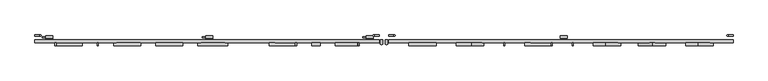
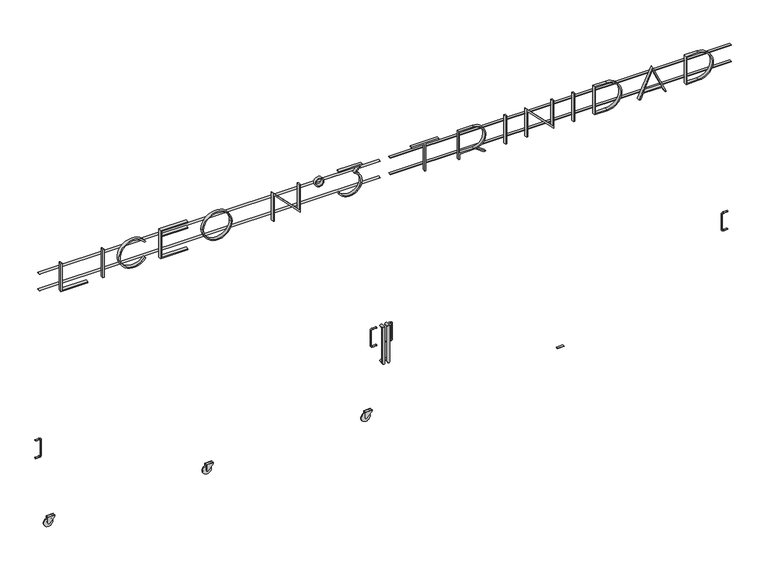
"""IFC4 building model written with IfcOpenShell, lengths in millimetres: furniture geometry, H01 Portón corredizo : H01 Porton corredizo 721x315."""

from ifc_helpers import new_model, si_unit, point, frame, frame_2d, origin, place, context, project, spatial, polyline, circle_curve, ellipse_curve, trimmed, segment, composite_curve, outline, extrude, source, transform, mapped, element, save
from ifc_brep_helpers import plane_surface, cylinder_surface, revolved_surface, advanced_brep


def furniture_868831be(model_context):
    return source(origin(), model_context, "Body", "SolidModel", [
        extrude(outline(polyline([(2529.9998627, -6365.2996736), (2529.9998627, -6090.2994096), (2542.4295313, -6090.2994096), (2542.4295313, -6352.9369075), (2829.9998627, -6352.9369075), (2829.9998627, -6365.2996736), (2529.9998627, -6365.2996736)])), frame((0.0, -669.0, 0.0), z_axis=(0.0, 1.0, 0.0), x_axis=(0.0, 0.0, 1.0)), (0.0, 0.0, 1.0), 30.0),
        extrude(outline(polyline([(-5927.9366435, -669.0), (-5940.2994096, -669.0), (-5940.2994096, -639.0), (-5927.9366435, -639.0), (-5927.9366435, -669.0)])), frame((0.0, 0.0, 2529.9998627), z_axis=(0.0, 0.0, 1.0), x_axis=(1.0, 0.0, 0.0)), (0.0, 0.0, 1.0), 300.0),
        extrude(outline(composite_curve([segment(polyline([(2591.7095497, -5505.848262), (2598.9302362, -5515.883064)]), True, "CONTINUOUS"), segment(trimmed(circle_curve(frame_2d((2679.4277113, -5627.752736)), 137.8211414), [point((2598.9302362, -5515.883064))], [point((2759.9251843, -5515.8830625))], True, "CARTESIAN"), True, "CONTINUOUS"), segment(polyline([(2759.9251843, -5515.8830625), (2767.145873, -5505.848262)]), True, "CONTINUOUS"), segment(trimmed(circle_curve(frame_2d((2679.4277113, -5627.75279)), 150.1838534), [point((2767.145873, -5505.848262))], [point((2591.7095497, -5505.848262))], False, "CARTESIAN"), True, "CONTINUOUS")], self_intersect=False)), frame((0.0, -669.0, 0.0), z_axis=(0.0, 1.0, 0.0), x_axis=(0.0, 0.0, 1.0)), (0.0, 0.0, 1.0), 30.0),
        extrude(outline(polyline([(2829.9998627, -5355.848262), (2528.85556, -5355.848262), (2528.85556, -5080.8479981), (2541.2181676, -5080.8479981), (2541.2181676, -5343.4854959), (2758.6762121, -5343.4854959), (2758.6762121, -5080.8479981), (2771.0389782, -5080.8479981), (2771.0389782, -5343.4854959), (2817.6369381, -5343.4854959), (2817.6369381, -5080.8479981), (2829.9998627, -5080.8479981), (2829.9998627, -5355.848262)])), frame((0.0, -669.0, 0.0), z_axis=(0.0, 1.0, 0.0), x_axis=(0.0, 0.0, 1.0)), (0.0, 0.0, 1.0), 30.0),
        extrude(outline(composite_curve([segment(trimmed(circle_curve(frame_2d((2679.9998627, -4780.8479981)), 150.0), [point((2679.9998627, -4930.8479981))], [point((2679.9998627, -4630.8479981))], False, "CARTESIAN"), True, "CONTINUOUS"), segment(trimmed(circle_curve(frame_2d((2679.9998627, -4780.8479981)), 150.0), [point((2679.9998627, -4630.8479981))], [point((2679.9998627, -4930.8479981))], False, "CARTESIAN"), True, "CONTINUOUS")], self_intersect=False), holes=[composite_curve([segment(trimmed(circle_curve(frame_2d((2679.9998627, -4780.8479981)), 137.4283733), [point((2679.9998627, -4918.2763713))], [point((2679.9998627, -4643.4196248))], True, "CARTESIAN"), True, "CONTINUOUS"), segment(trimmed(circle_curve(frame_2d((2679.9998627, -4780.8479981)), 137.4283733), [point((2679.9998627, -4643.4196248))], [point((2679.9998627, -4918.2763713))], True, "CARTESIAN"), True, "CONTINUOUS")], self_intersect=False)]), frame((0.0, -669.0, 0.0), z_axis=(0.0, 1.0, 0.0), x_axis=(0.0, 0.0, 1.0)), (0.0, 0.0, 1.0), 30.0),
        extrude(outline(polyline([(2829.9998627, -4216.8407522), (2529.0929739, -4216.8407522), (2529.0929739, -4204.5022238), (2799.5070611, -4204.5022238), (2798.0975097, -4203.0926724), (2529.0765137, -3941.8404882), (2829.9998627, -3941.8404882), (2829.9998627, -3954.2032543), (2559.5523582, -3954.2032543), (2829.9998627, -4216.8407522)])), frame((0.0, -669.0, 0.0), z_axis=(0.0, 1.0, 0.0), x_axis=(0.0, 0.0, 1.0)), (0.0, 0.0, 1.0), 30.0),
        extrude(outline(composite_curve([segment(trimmed(circle_curve(frame_2d((2781.9708755, -3747.4640771)), 44.3764111), [point((2737.5944644, -3747.4640771))], [point((2781.9708755, -3703.087666))], False, "CARTESIAN"), True, "CONTINUOUS"), segment(trimmed(circle_curve(frame_2d((2781.9708755, -3747.4640771)), 44.3764111), [point((2781.9708755, -3703.087666))], [point((2737.5944644, -3747.4640771))], False, "CARTESIAN"), True, "CONTINUOUS")], self_intersect=False), holes=[composite_curve([segment(trimmed(circle_curve(frame_2d((2781.9708755, -3747.4640771)), 33.5035361), [point((2777.3080845, -3780.6415591))], [point((2815.4744115, -3747.4640771))], True, "CARTESIAN"), True, "CONTINUOUS"), segment(trimmed(circle_curve(frame_2d((2781.9708755, -3747.4640771)), 33.5035361), [point((2815.4744115, -3747.4640771))], [point((2777.3080845, -3780.6415591))], True, "CARTESIAN"), True, "CONTINUOUS")], self_intersect=False)]), frame((0.0, -669.0, 0.0), z_axis=(0.0, 1.0, 0.0), x_axis=(0.0, 0.0, 1.0)), (0.0, 0.0, 1.0), 30.0),
        extrude(outline(composite_curve([segment(polyline([(2829.9998627, -3315.2996736), (2829.9998627, -3553.087666), (2817.6369381, -3553.087666), (2817.6369381, -3343.3913293), (2759.0291421, -3397.3715435)]), True, "CONTINUOUS"), segment(trimmed(circle_curve(frame_2d((2654.721664, -3444.7556694)), 114.5657251), [point((2759.0291421, -3397.3715435))], [point((2597.6970286, -3544.1211379))], True, "CARTESIAN"), True, "CONTINUOUS"), segment(polyline([(2597.6970286, -3544.1211379), (2588.7305004, -3553.087666)]), True, "CONTINUOUS"), segment(trimmed(circle_curve(frame_2d((2654.4882206, -3444.7302785)), 126.7493637), [point((2588.7305004, -3553.087666))], [point((2762.1312109, -3377.8095206))], False, "CARTESIAN"), True, "CONTINUOUS"), segment(polyline([(2762.1312109, -3377.8095206), (2829.9998627, -3315.2996736)]), True, "CONTINUOUS")], self_intersect=False)), frame((0.0, -669.0, 0.0), z_axis=(0.0, 1.0, 0.0), x_axis=(0.0, 0.0, 1.0)), (0.0, 0.0, 1.0), 30.0),
        extrude(outline(polyline([(2829.9998627, -2540.2995355), (2829.9998627, -2815.2996736), (2817.6371023, -2815.2996736), (2817.6371023, -2683.4025872), (2530.0, -2683.4025872), (2530.0, -2671.6225997), (2817.6371023, -2671.6225997), (2817.6371023, -2540.2995355), (2829.9998627, -2540.2995355)])), frame((0.0, -669.0, 0.0), z_axis=(0.0, 1.0, 0.0), x_axis=(0.0, 0.0, 1.0)), (0.0, 0.0, 1.0), 30.0),
        extrude(outline(composite_curve([segment(polyline([(2829.9998627, -2340.2995355), (2530.0, -2340.2995355), (2530.0, -2327.936775), (2587.673794, -2327.936775), (2587.673794, -2171.9192542), (2529.9999314, -2087.257936), (2529.9999314, -2065.2993974), (2591.6272199, -2155.7640835)]), True, "CONTINUOUS"), segment(trimmed(circle_curve(frame_2d((2708.8368283, -2186.4624317)), 121.1630344), [point((2591.6272199, -2155.7640835))], [point((2829.9998627, -2186.4624317))], False, "CARTESIAN"), True, "CONTINUOUS"), segment(polyline([(2829.9998627, -2186.4624317), (2829.9998627, -2340.2995355)]), True, "CONTINUOUS")], self_intersect=False), holes=[composite_curve([segment(polyline([(2600.0365544, -2327.936775), (2817.6371023, -2327.936775), (2817.6371023, -2186.4624317)]), True, "CONTINUOUS"), segment(trimmed(circle_curve(frame_2d((2708.8368283, -2186.4624317)), 108.8002739), [point((2817.6371023, -2186.4624317))], [point((2600.0365544, -2186.4624317))], True, "CARTESIAN"), True, "CONTINUOUS"), segment(polyline([(2600.0365544, -2186.4624317), (2600.0365544, -2327.936775)]), True, "CONTINUOUS")], self_intersect=False)]), frame((0.0, -669.0, 0.0), z_axis=(0.0, 1.0, 0.0), x_axis=(0.0, 0.0, 1.0)), (0.0, 0.0, 1.0), 30.0),
        extrude(outline(polyline([(-1852.9366312, -669.0), (-1865.2993974, -669.0), (-1865.2993974, -639.0), (-1852.9366312, -639.0), (-1852.9366312, -669.0)])), frame((0.0, 0.0, 2529.9999314), z_axis=(0.0, 0.0, 1.0), x_axis=(1.0, 0.0, 0.0)), (0.0, 0.0, 1.0), 299.9998627),
        extrude(outline(polyline([(2829.9997941, -1652.9366312), (2529.9999314, -1652.9366312), (2529.9999314, -1640.5738651), (2800.4309757, -1640.5738651), (2529.9999314, -1377.9363673), (2829.9997941, -1377.9363673), (2829.9997941, -1390.2991334), (2560.4593157, -1390.2991334), (2829.9997941, -1652.9366312)])), frame((0.0, -669.0, 0.0), z_axis=(0.0, 1.0, 0.0), x_axis=(0.0, 0.0, 1.0)), (0.0, 0.0, 1.0), 30.0),
        extrude(outline(polyline([(-1165.5736012, -669.0), (-1177.9363673, -669.0), (-1177.9363673, -639.0), (-1165.5736012, -639.0), (-1165.5736012, -669.0)])), frame((0.0, 0.0, 2529.9834712), z_axis=(0.0, 0.0, 1.0), x_axis=(1.0, 0.0, 0.0)), (0.0, 0.0, 1.0), 300.0163229),
        extrude(outline(composite_curve([segment(polyline([(2829.9997941, -965.5736012), (2529.9999314, -965.5736012), (2529.9999314, -840.5733372)]), True, "CONTINUOUS"), segment(trimmed(circle_curve(frame_2d((2679.9998627, -840.5733372)), 149.9999314), [point((2529.9999314, -840.5733372))], [point((2829.9997941, -840.5733372))], False, "CARTESIAN"), True, "CONTINUOUS"), segment(polyline([(2829.9997941, -840.5733372), (2829.9997941, -965.5736012)]), True, "CONTINUOUS")], self_intersect=False), holes=[composite_curve([segment(polyline([(2817.5538026, -953.2108351), (2817.5538026, -840.5733372)]), True, "CONTINUOUS"), segment(trimmed(circle_curve(frame_2d((2679.9499407, -840.5733372)), 137.6038619), [point((2817.5538026, -840.5733372))], [point((2542.3460788, -840.5733372))], True, "CARTESIAN"), True, "CONTINUOUS"), segment(polyline([(2542.3460788, -840.5733372), (2542.3460788, -953.2108351), (2817.5538026, -953.2108351)]), True, "CONTINUOUS")], self_intersect=False)]), frame((0.0, -669.0, 0.0), z_axis=(0.0, 1.0, 0.0), x_axis=(0.0, 0.0, 1.0)), (0.0, 0.0, 1.0), 30.0),
        extrude(outline(polyline([(2829.9998627, -377.7848433), (2529.9834712, -515.2923246), (2529.9834712, -501.6929047), (2587.6572362, -475.2590958), (2587.6572362, -280.3226778), (2530.0, -253.8992888), (2530.0, -240.2998689), (2829.9998627, -377.7848433)]), holes=[polyline([(2600.0199904, -469.5928334), (2800.3267866, -377.7855833), (2600.0199904, -285.9883236), (2600.0199904, -469.5928334)])]), frame((0.0, -669.0, 0.0), z_axis=(0.0, 1.0, 0.0), x_axis=(0.0, 0.0, 1.0)), (0.0, 0.0, 1.0), 30.0),
        extrude(outline(composite_curve([segment(polyline([(2829.9998627, -40.2998689), (2530.0, -40.2998689), (2530.0, 84.7003951)]), True, "CONTINUOUS"), segment(trimmed(circle_curve(frame_2d((2679.9999314, 84.7003951)), 149.9999314), [point((2530.0, 84.7003951))], [point((2829.9998627, 84.7003951))], False, "CARTESIAN"), True, "CONTINUOUS"), segment(polyline([(2829.9998627, 84.7003951), (2829.9998627, -40.2998689)]), True, "CONTINUOUS")], self_intersect=False), holes=[composite_curve([segment(polyline([(2817.5538712, -27.9371028), (2817.5538712, 84.7003951)]), True, "CONTINUOUS"), segment(trimmed(circle_curve(frame_2d((2679.9500093, 84.7003951)), 137.6038619), [point((2817.5538712, 84.7003951))], [point((2542.3461475, 84.7003951))], True, "CARTESIAN"), True, "CONTINUOUS"), segment(polyline([(2542.3461475, 84.7003951), (2542.3461475, -27.9371028), (2817.5538712, -27.9371028)]), True, "CONTINUOUS")], self_intersect=False)]), frame((0.0, -669.0, 0.0), z_axis=(0.0, 1.0, 0.0), x_axis=(0.0, 0.0, 1.0)), (0.0, 0.0, 1.0), 30.0),
        extrude(outline(polyline([(-3115.2996736, -639.0), (-6565.2996736, -639.0), (-6565.2996736, -609.0), (-3115.2996736, -609.0), (-3115.2996736, -639.0)])), frame((0.0, 0.0, 2765.9998627), z_axis=(0.0, 0.0, 1.0), x_axis=(1.0, 0.0, 0.0)), (0.0, 0.0, 1.0), 4.0),
        extrude(outline(polyline([(-3115.2996736, -639.0), (-6565.2996736, -639.0), (-6565.2996736, -609.0), (-3115.2996736, -609.0), (-3115.2996736, -639.0)])), frame((0.0, 0.0, 2589.9998627), z_axis=(0.0, 0.0, 1.0), x_axis=(1.0, 0.0, 0.0)), (0.0, 0.0, 1.0), 4.0),
        extrude(outline(polyline([(434.7003264, -639.0), (-3015.2996736, -639.0), (-3015.2996736, -609.0), (434.7003264, -609.0), (434.7003264, -639.0)])), frame((0.0, 0.0, 2765.9998627), z_axis=(0.0, 0.0, 1.0), x_axis=(1.0, 0.0, 0.0)), (0.0, 0.0, 1.0), 4.0),
        extrude(outline(polyline([(434.7003264, -639.0), (-3015.2996736, -639.0), (-3015.2996736, -609.0), (434.7003264, -609.0), (434.7003264, -639.0)])), frame((0.0, 0.0, 2589.9998627), z_axis=(0.0, 0.0, 1.0), x_axis=(1.0, 0.0, 0.0)), (0.0, 0.0, 1.0), 4.0),
        advanced_brep(
        [(-6565.2996736, -574.0, 949.0), (-6565.2996736, -562.0, 949.0), (-6523.2996736, -574.0, 949.0), (-6523.2996736, -562.0, 949.0), (-6509.2996736, -562.0, 935.0), (-6509.2996736, -574.0, 935.0), (-6509.2996736, -574.0, 775.0), (-6509.2996736, -562.0, 775.0), (-6565.2996736, -574.0, 761.0), (-6565.2996736, -562.0, 761.0), (-6523.2996736, -562.0, 761.0), (-6523.2996736, -574.0, 761.0)],
        [
            (0, 1, circle_curve(frame((-6565.2996736, -568.0, 949.0), z_axis=(-1.0, 0.0, 0.0), x_axis=(0.0, 1.0, 0.0)), 6.0)),
            (1, 0, circle_curve(frame((-6565.2996736, -568.0, 949.0), z_axis=(-1.0, 0.0, 0.0), x_axis=(0.0, 1.0, 0.0)), 6.0)),
            (0, 2),
            (2, 3, circle_curve(frame((-6523.2996736, -568.0, 949.0), z_axis=(-1.0, 0.0, 0.0), x_axis=(0.0, 1.0, 0.0)), 6.0)),
            (3, 1),
            (3, 2, circle_curve(frame((-6523.2996736, -568.0, 949.0), z_axis=(-1.0, 0.0, 0.0), x_axis=(0.0, 1.0, 0.0)), 6.0)),
            (4, 5, circle_curve(frame((-6509.2996736, -568.0, 935.0), z_axis=(0.0, 0.0, -1.0), x_axis=(0.0, 1.0, 0.0)), 6.0)),
            (5, 6),
            (6, 7, circle_curve(frame((-6509.2996736, -568.0, 775.0), z_axis=(0.0, 0.0, 1.0), x_axis=(0.0, 1.0, 0.0)), 6.0)),
            (7, 4),
            (5, 4, circle_curve(frame((-6509.2996736, -568.0, 935.0), z_axis=(0.0, 0.0, -1.0), x_axis=(0.0, 1.0, 0.0)), 6.0)),
            (7, 6, circle_curve(frame((-6509.2996736, -568.0, 775.0), z_axis=(0.0, 0.0, 1.0), x_axis=(0.0, 1.0, 0.0)), 6.0)),
            (8, 9, circle_curve(frame((-6565.2996736, -568.0, 761.0), z_axis=(-1.0, 0.0, 0.0), x_axis=(0.0, 1.0, 0.0)), 6.0)),
            (9, 8, circle_curve(frame((-6565.2996736, -568.0, 761.0), z_axis=(-1.0, 0.0, 0.0), x_axis=(0.0, 1.0, 0.0)), 6.0)),
            (10, 11, circle_curve(frame((-6523.2996736, -568.0, 761.0), z_axis=(-1.0, 0.0, 0.0), x_axis=(0.0, 1.0, 0.0)), 6.0)),
            (11, 8),
            (9, 10),
            (11, 10, circle_curve(frame((-6523.2996736, -568.0, 761.0), z_axis=(-1.0, 0.0, 0.0), x_axis=(0.0, 1.0, 0.0)), 6.0)),
            (4, 3, circle_curve(frame((-6523.2996736, -562.0, 935.0), z_axis=(0.0, -1.0, 0.0), x_axis=(0.0, 0.0, 1.0)), 14.0)),
            (2, 5, circle_curve(frame((-6523.2996736, -574.0, 935.0), z_axis=(0.0, 1.0, 0.0), x_axis=(0.0, 0.0, 1.0)), 14.0)),
            (10, 7, circle_curve(frame((-6523.2996736, -562.0, 775.0), z_axis=(0.0, -1.0, 0.0), x_axis=(1.0, 0.0, 0.0)), 14.0)),
            (6, 11, circle_curve(frame((-6523.2996736, -574.0, 775.0), z_axis=(0.0, 1.0, 0.0), x_axis=(1.0, 0.0, 0.0)), 14.0)),
        ],
        [
            plane_surface(frame((-6565.2996736, -568.0, 955.0), z_axis=(-1.0, 0.0, 0.0), x_axis=(0.0, 1.0, 0.0))),
            cylinder_surface(frame((-6565.2996736, -568.0, 949.0), z_axis=(-1.0, 0.0, 0.0), x_axis=(0.0, 1.0, 0.0)), 6.0),
            cylinder_surface(frame((-6509.2996736, -568.0, 935.0), z_axis=(0.0, 0.0, 1.0), x_axis=(0.0, 1.0, 0.0)), 6.0),
            plane_surface(frame((-6565.2996736, -568.0, 755.0), z_axis=(-1.0, 0.0, 0.0), x_axis=(0.0, 1.0, 0.0))),
            cylinder_surface(frame((-6523.2996736, -568.0, 761.0), z_axis=(1.0, 0.0, 0.0), x_axis=(0.0, 1.0, 0.0)), 6.0),
            revolved_surface(trimmed(ellipse_curve(frame((-6523.2996736, -568.0, 949.0), z_axis=(-1.0, 0.0, 0.0), x_axis=(0.0, 1.0, 0.0)), 6.0, 6.0), [point((-6523.2996736, -574.0, 949.0))], [point((-6523.2996736, -562.0, 949.0))], True, "CARTESIAN"), (-6523.2996736, -568.0, 935.0), (0.0, 1.0, 0.0)),
            revolved_surface(trimmed(ellipse_curve(frame((-6523.2996736, -568.0, 949.0), z_axis=(-1.0, 0.0, 0.0), x_axis=(0.0, 1.0, 0.0)), 6.0, 6.0), [point((-6523.2996736, -562.0, 949.0))], [point((-6523.2996736, -574.0, 949.0))], True, "CARTESIAN"), (-6523.2996736, -568.0, 935.0), (0.0, 1.0, 0.0)),
            revolved_surface(trimmed(ellipse_curve(frame((-6509.2996736, -568.0, 775.0), z_axis=(0.0, 0.0, 1.0), x_axis=(0.0, 1.0, 0.0)), 6.0, 6.0), [point((-6509.2996736, -574.0, 775.0))], [point((-6509.2996736, -562.0, 775.0))], True, "CARTESIAN"), (-6523.2996736, -568.0, 775.0), (0.0, 1.0, 0.0)),
            revolved_surface(trimmed(ellipse_curve(frame((-6509.2996736, -568.0, 775.0), z_axis=(0.0, 0.0, 1.0), x_axis=(0.0, 1.0, 0.0)), 6.0, 6.0), [point((-6509.2996736, -562.0, 775.0))], [point((-6509.2996736, -574.0, 775.0))], True, "CARTESIAN"), (-6523.2996736, -568.0, 775.0), (0.0, 1.0, 0.0)),
        ],
        [
            (0, [[1, 2]]),
            (1, [[-1, 3, 4, 5]]),
            (1, [[-2, -5, 6, -3]]),
            (2, [[7, 8, 9, 10]]),
            (2, [[11, -10, 12, -8]]),
            (3, [[13, 14]]),
            (4, [[15, 16, -14, 17]]),
            (4, [[18, -17, -13, -16]]),
            (5, [[19, -4, 20, -7]]),
            (6, [[-20, -6, -19, -11]]),
            (7, [[21, -9, 22, -15]]),
            (8, [[-22, -12, -21, -18]]),
        ],
    ),
        advanced_brep(
        [(434.7003264, -562.0, 949.0), (434.7003264, -574.0, 949.0), (392.7003264, -562.0, 949.0), (392.7003264, -574.0, 949.0), (378.7003264, -574.0, 935.0), (378.7003264, -562.0, 935.0), (378.7003264, -562.0, 775.0), (378.7003264, -574.0, 775.0), (434.7003264, -562.0, 761.0), (434.7003264, -574.0, 761.0), (392.7003264, -574.0, 761.0), (392.7003264, -562.0, 761.0)],
        [
            (0, 1, circle_curve(frame((434.7003264, -568.0, 949.0), z_axis=(1.0, 0.0, 0.0), x_axis=(0.0, -1.0, 0.0)), 6.0)),
            (1, 0, circle_curve(frame((434.7003264, -568.0, 949.0), z_axis=(1.0, 0.0, 0.0), x_axis=(0.0, -1.0, 0.0)), 6.0)),
            (0, 2),
            (2, 3, circle_curve(frame((392.7003264, -568.0, 949.0), z_axis=(1.0, 0.0, 0.0), x_axis=(0.0, -1.0, 0.0)), 6.0)),
            (3, 1),
            (3, 2, circle_curve(frame((392.7003264, -568.0, 949.0), z_axis=(1.0, 0.0, 0.0), x_axis=(0.0, -1.0, 0.0)), 6.0)),
            (4, 5, circle_curve(frame((378.7003264, -568.0, 935.0), z_axis=(0.0, 0.0, -1.0), x_axis=(0.0, -1.0, 0.0)), 6.0)),
            (5, 6),
            (6, 7, circle_curve(frame((378.7003264, -568.0, 775.0), z_axis=(0.0, 0.0, 1.0), x_axis=(0.0, -1.0, 0.0)), 6.0)),
            (7, 4),
            (5, 4, circle_curve(frame((378.7003264, -568.0, 935.0), z_axis=(0.0, 0.0, -1.0), x_axis=(0.0, -1.0, 0.0)), 6.0)),
            (7, 6, circle_curve(frame((378.7003264, -568.0, 775.0), z_axis=(0.0, 0.0, 1.0), x_axis=(0.0, -1.0, 0.0)), 6.0)),
            (8, 9, circle_curve(frame((434.7003264, -568.0, 761.0), z_axis=(1.0, 0.0, 0.0), x_axis=(0.0, -1.0, 0.0)), 6.0)),
            (9, 8, circle_curve(frame((434.7003264, -568.0, 761.0), z_axis=(1.0, 0.0, 0.0), x_axis=(0.0, -1.0, 0.0)), 6.0)),
            (10, 11, circle_curve(frame((392.7003264, -568.0, 761.0), z_axis=(1.0, 0.0, 0.0), x_axis=(0.0, -1.0, 0.0)), 6.0)),
            (11, 8),
            (9, 10),
            (11, 10, circle_curve(frame((392.7003264, -568.0, 761.0), z_axis=(1.0, 0.0, 0.0), x_axis=(0.0, -1.0, 0.0)), 6.0)),
            (4, 3, circle_curve(frame((392.7003264, -574.0, 935.0), z_axis=(0.0, 1.0, 0.0), x_axis=(0.0, 0.0, 1.0)), 14.0)),
            (2, 5, circle_curve(frame((392.7003264, -562.0, 935.0), z_axis=(0.0, -1.0, 0.0), x_axis=(0.0, 0.0, 1.0)), 14.0)),
            (10, 7, circle_curve(frame((392.7003264, -574.0, 775.0), z_axis=(0.0, 1.0, 0.0), x_axis=(-1.0, 0.0, 0.0)), 14.0)),
            (6, 11, circle_curve(frame((392.7003264, -562.0, 775.0), z_axis=(0.0, -1.0, 0.0), x_axis=(-1.0, 0.0, 0.0)), 14.0)),
        ],
        [
            plane_surface(frame((434.7003264, -568.0, 955.0), z_axis=(1.0, 0.0, 0.0), x_axis=(0.0, -1.0, 0.0))),
            cylinder_surface(frame((434.7003264, -568.0, 949.0), z_axis=(1.0, 0.0, 0.0), x_axis=(0.0, -1.0, 0.0)), 6.0),
            cylinder_surface(frame((378.7003264, -568.0, 935.0), z_axis=(0.0, 0.0, 1.0), x_axis=(0.0, -1.0, 0.0)), 6.0),
            plane_surface(frame((434.7003264, -568.0, 755.0), z_axis=(1.0, 0.0, 0.0), x_axis=(0.0, -1.0, 0.0))),
            cylinder_surface(frame((392.7003264, -568.0, 761.0), z_axis=(-1.0, 0.0, 0.0), x_axis=(0.0, -1.0, 0.0)), 6.0),
            revolved_surface(trimmed(ellipse_curve(frame((392.7003264, -568.0, 949.0), z_axis=(1.0, 0.0, 0.0), x_axis=(0.0, -1.0, 0.0)), 6.0, 6.0), [point((392.7003264, -562.0, 949.0))], [point((392.7003264, -574.0, 949.0))], True, "CARTESIAN"), (392.7003264, -568.0, 935.0), (0.0, -1.0, 0.0)),
            revolved_surface(trimmed(ellipse_curve(frame((392.7003264, -568.0, 949.0), z_axis=(1.0, 0.0, 0.0), x_axis=(0.0, -1.0, 0.0)), 6.0, 6.0), [point((392.7003264, -574.0, 949.0))], [point((392.7003264, -562.0, 949.0))], True, "CARTESIAN"), (392.7003264, -568.0, 935.0), (0.0, -1.0, 0.0)),
            revolved_surface(trimmed(ellipse_curve(frame((378.7003264, -568.0, 775.0), z_axis=(0.0, 0.0, 1.0), x_axis=(0.0, -1.0, 0.0)), 6.0, 6.0), [point((378.7003264, -562.0, 775.0))], [point((378.7003264, -574.0, 775.0))], True, "CARTESIAN"), (392.7003264, -568.0, 775.0), (0.0, -1.0, 0.0)),
            revolved_surface(trimmed(ellipse_curve(frame((378.7003264, -568.0, 775.0), z_axis=(0.0, 0.0, 1.0), x_axis=(0.0, -1.0, 0.0)), 6.0, 6.0), [point((378.7003264, -574.0, 775.0))], [point((378.7003264, -562.0, 775.0))], True, "CARTESIAN"), (392.7003264, -568.0, 775.0), (0.0, -1.0, 0.0)),
        ],
        [
            (0, [[1, 2]]),
            (1, [[-1, 3, 4, 5]]),
            (1, [[-2, -5, 6, -3]]),
            (2, [[7, 8, 9, 10]]),
            (2, [[11, -10, 12, -8]]),
            (3, [[13, 14]]),
            (4, [[15, 16, -14, 17]]),
            (4, [[18, -17, -13, -16]]),
            (5, [[19, -4, 20, -7]]),
            (6, [[-20, -6, -19, -11]]),
            (7, [[21, -9, 22, -15]]),
            (8, [[-22, -12, -21, -18]]),
        ],
    ),
        advanced_brep(
        [(-3115.2996736, -562.0, 949.0), (-3115.2996736, -574.0, 949.0), (-3157.2996736, -562.0, 949.0), (-3157.2996736, -574.0, 949.0), (-3171.2996736, -574.0, 935.0), (-3171.2996736, -562.0, 935.0), (-3171.2996736, -562.0, 775.0), (-3171.2996736, -574.0, 775.0), (-3115.2996736, -562.0, 761.0), (-3115.2996736, -574.0, 761.0), (-3157.2996736, -574.0, 761.0), (-3157.2996736, -562.0, 761.0)],
        [
            (0, 1, circle_curve(frame((-3115.2996736, -568.0, 949.0), z_axis=(1.0, 0.0, 0.0), x_axis=(0.0, -1.0, 0.0)), 6.0)),
            (1, 0, circle_curve(frame((-3115.2996736, -568.0, 949.0), z_axis=(1.0, 0.0, 0.0), x_axis=(0.0, -1.0, 0.0)), 6.0)),
            (0, 2),
            (2, 3, circle_curve(frame((-3157.2996736, -568.0, 949.0), z_axis=(1.0, 0.0, 0.0), x_axis=(0.0, -1.0, 0.0)), 6.0)),
            (3, 1),
            (3, 2, circle_curve(frame((-3157.2996736, -568.0, 949.0), z_axis=(1.0, 0.0, 0.0), x_axis=(0.0, -1.0, 0.0)), 6.0)),
            (4, 5, circle_curve(frame((-3171.2996736, -568.0, 935.0), z_axis=(0.0, 0.0, -1.0), x_axis=(0.0, -1.0, 0.0)), 6.0)),
            (5, 6),
            (6, 7, circle_curve(frame((-3171.2996736, -568.0, 775.0), z_axis=(0.0, 0.0, 1.0), x_axis=(0.0, -1.0, 0.0)), 6.0)),
            (7, 4),
            (5, 4, circle_curve(frame((-3171.2996736, -568.0, 935.0), z_axis=(0.0, 0.0, -1.0), x_axis=(0.0, -1.0, 0.0)), 6.0)),
            (7, 6, circle_curve(frame((-3171.2996736, -568.0, 775.0), z_axis=(0.0, 0.0, 1.0), x_axis=(0.0, -1.0, 0.0)), 6.0)),
            (8, 9, circle_curve(frame((-3115.2996736, -568.0, 761.0), z_axis=(1.0, 0.0, 0.0), x_axis=(0.0, -1.0, 0.0)), 6.0)),
            (9, 8, circle_curve(frame((-3115.2996736, -568.0, 761.0), z_axis=(1.0, 0.0, 0.0), x_axis=(0.0, -1.0, 0.0)), 6.0)),
            (10, 11, circle_curve(frame((-3157.2996736, -568.0, 761.0), z_axis=(1.0, 0.0, 0.0), x_axis=(0.0, -1.0, 0.0)), 6.0)),
            (11, 8),
            (9, 10),
            (11, 10, circle_curve(frame((-3157.2996736, -568.0, 761.0), z_axis=(1.0, 0.0, 0.0), x_axis=(0.0, -1.0, 0.0)), 6.0)),
            (4, 3, circle_curve(frame((-3157.2996736, -574.0, 935.0), z_axis=(0.0, 1.0, 0.0), x_axis=(0.0, 0.0, 1.0)), 14.0)),
            (2, 5, circle_curve(frame((-3157.2996736, -562.0, 935.0), z_axis=(0.0, -1.0, 0.0), x_axis=(0.0, 0.0, 1.0)), 14.0)),
            (10, 7, circle_curve(frame((-3157.2996736, -574.0, 775.0), z_axis=(0.0, 1.0, 0.0), x_axis=(-1.0, 0.0, 0.0)), 14.0)),
            (6, 11, circle_curve(frame((-3157.2996736, -562.0, 775.0), z_axis=(0.0, -1.0, 0.0), x_axis=(-1.0, 0.0, 0.0)), 14.0)),
        ],
        [
            plane_surface(frame((-3115.2996736, -568.0, 955.0), z_axis=(1.0, 0.0, 0.0), x_axis=(0.0, -1.0, 0.0))),
            cylinder_surface(frame((-3115.2996736, -568.0, 949.0), z_axis=(1.0, 0.0, 0.0), x_axis=(0.0, -1.0, 0.0)), 6.0),
            cylinder_surface(frame((-3171.2996736, -568.0, 935.0), z_axis=(0.0, 0.0, 1.0), x_axis=(0.0, -1.0, 0.0)), 6.0),
            plane_surface(frame((-3115.2996736, -568.0, 755.0), z_axis=(1.0, 0.0, 0.0), x_axis=(0.0, -1.0, 0.0))),
            cylinder_surface(frame((-3157.2996736, -568.0, 761.0), z_axis=(-1.0, 0.0, 0.0), x_axis=(0.0, -1.0, 0.0)), 6.0),
            revolved_surface(trimmed(ellipse_curve(frame((-3157.2996736, -568.0, 949.0), z_axis=(1.0, 0.0, 0.0), x_axis=(0.0, -1.0, 0.0)), 6.0, 6.0), [point((-3157.2996736, -562.0, 949.0))], [point((-3157.2996736, -574.0, 949.0))], True, "CARTESIAN"), (-3157.2996736, -568.0, 935.0), (0.0, -1.0, 0.0)),
            revolved_surface(trimmed(ellipse_curve(frame((-3157.2996736, -568.0, 949.0), z_axis=(1.0, 0.0, 0.0), x_axis=(0.0, -1.0, 0.0)), 6.0, 6.0), [point((-3157.2996736, -574.0, 949.0))], [point((-3157.2996736, -562.0, 949.0))], True, "CARTESIAN"), (-3157.2996736, -568.0, 935.0), (0.0, -1.0, 0.0)),
            revolved_surface(trimmed(ellipse_curve(frame((-3171.2996736, -568.0, 775.0), z_axis=(0.0, 0.0, 1.0), x_axis=(0.0, -1.0, 0.0)), 6.0, 6.0), [point((-3171.2996736, -562.0, 775.0))], [point((-3171.2996736, -574.0, 775.0))], True, "CARTESIAN"), (-3157.2996736, -568.0, 775.0), (0.0, -1.0, 0.0)),
            revolved_surface(trimmed(ellipse_curve(frame((-3171.2996736, -568.0, 775.0), z_axis=(0.0, 0.0, 1.0), x_axis=(0.0, -1.0, 0.0)), 6.0, 6.0), [point((-3171.2996736, -574.0, 775.0))], [point((-3171.2996736, -562.0, 775.0))], True, "CARTESIAN"), (-3157.2996736, -568.0, 775.0), (0.0, -1.0, 0.0)),
        ],
        [
            (0, [[1, 2]]),
            (1, [[-1, 3, 4, 5]]),
            (1, [[-2, -5, 6, -3]]),
            (2, [[7, 8, 9, 10]]),
            (2, [[11, -10, 12, -8]]),
            (3, [[13, 14]]),
            (4, [[15, 16, -14, 17]]),
            (4, [[18, -17, -13, -16]]),
            (5, [[19, -4, 20, -7]]),
            (6, [[-20, -6, -19, -11]]),
            (7, [[21, -9, 22, -15]]),
            (8, [[-22, -12, -21, -18]]),
        ],
    ),
        advanced_brep(
        [(-3015.2996736, -574.0, 949.0), (-3015.2996736, -562.0, 949.0), (-2973.2996736, -574.0, 949.0), (-2973.2996736, -562.0, 949.0), (-2959.2996736, -562.0, 935.0), (-2959.2996736, -574.0, 935.0), (-2959.2996736, -574.0, 775.0), (-2959.2996736, -562.0, 775.0), (-3015.2996736, -574.0, 761.0), (-3015.2996736, -562.0, 761.0), (-2973.2996736, -562.0, 761.0), (-2973.2996736, -574.0, 761.0)],
        [
            (0, 1, circle_curve(frame((-3015.2996736, -568.0, 949.0), z_axis=(-1.0, 0.0, 0.0), x_axis=(0.0, 1.0, 0.0)), 6.0)),
            (1, 0, circle_curve(frame((-3015.2996736, -568.0, 949.0), z_axis=(-1.0, 0.0, 0.0), x_axis=(0.0, 1.0, 0.0)), 6.0)),
            (0, 2),
            (2, 3, circle_curve(frame((-2973.2996736, -568.0, 949.0), z_axis=(-1.0, 0.0, 0.0), x_axis=(0.0, 1.0, 0.0)), 6.0)),
            (3, 1),
            (3, 2, circle_curve(frame((-2973.2996736, -568.0, 949.0), z_axis=(-1.0, 0.0, 0.0), x_axis=(0.0, 1.0, 0.0)), 6.0)),
            (4, 5, circle_curve(frame((-2959.2996736, -568.0, 935.0), z_axis=(0.0, 0.0, -1.0), x_axis=(0.0, 1.0, 0.0)), 6.0)),
            (5, 6),
            (6, 7, circle_curve(frame((-2959.2996736, -568.0, 775.0), z_axis=(0.0, 0.0, 1.0), x_axis=(0.0, 1.0, 0.0)), 6.0)),
            (7, 4),
            (5, 4, circle_curve(frame((-2959.2996736, -568.0, 935.0), z_axis=(0.0, 0.0, -1.0), x_axis=(0.0, 1.0, 0.0)), 6.0)),
            (7, 6, circle_curve(frame((-2959.2996736, -568.0, 775.0), z_axis=(0.0, 0.0, 1.0), x_axis=(0.0, 1.0, 0.0)), 6.0)),
            (8, 9, circle_curve(frame((-3015.2996736, -568.0, 761.0), z_axis=(-1.0, 0.0, 0.0), x_axis=(0.0, 1.0, 0.0)), 6.0)),
            (9, 8, circle_curve(frame((-3015.2996736, -568.0, 761.0), z_axis=(-1.0, 0.0, 0.0), x_axis=(0.0, 1.0, 0.0)), 6.0)),
            (10, 11, circle_curve(frame((-2973.2996736, -568.0, 761.0), z_axis=(-1.0, 0.0, 0.0), x_axis=(0.0, 1.0, 0.0)), 6.0)),
            (11, 8),
            (9, 10),
            (11, 10, circle_curve(frame((-2973.2996736, -568.0, 761.0), z_axis=(-1.0, 0.0, 0.0), x_axis=(0.0, 1.0, 0.0)), 6.0)),
            (4, 3, circle_curve(frame((-2973.2996736, -562.0, 935.0), z_axis=(0.0, -1.0, 0.0), x_axis=(0.0, 0.0, 1.0)), 14.0)),
            (2, 5, circle_curve(frame((-2973.2996736, -574.0, 935.0), z_axis=(0.0, 1.0, 0.0), x_axis=(0.0, 0.0, 1.0)), 14.0)),
            (10, 7, circle_curve(frame((-2973.2996736, -562.0, 775.0), z_axis=(0.0, -1.0, 0.0), x_axis=(1.0, 0.0, 0.0)), 14.0)),
            (6, 11, circle_curve(frame((-2973.2996736, -574.0, 775.0), z_axis=(0.0, 1.0, 0.0), x_axis=(1.0, 0.0, 0.0)), 14.0)),
        ],
        [
            plane_surface(frame((-3015.2996736, -568.0, 955.0), z_axis=(-1.0, 0.0, 0.0), x_axis=(0.0, 1.0, 0.0))),
            cylinder_surface(frame((-3015.2996736, -568.0, 949.0), z_axis=(-1.0, 0.0, 0.0), x_axis=(0.0, 1.0, 0.0)), 6.0),
            cylinder_surface(frame((-2959.2996736, -568.0, 935.0), z_axis=(0.0, 0.0, 1.0), x_axis=(0.0, 1.0, 0.0)), 6.0),
            plane_surface(frame((-3015.2996736, -568.0, 755.0), z_axis=(-1.0, 0.0, 0.0), x_axis=(0.0, 1.0, 0.0))),
            cylinder_surface(frame((-2973.2996736, -568.0, 761.0), z_axis=(1.0, 0.0, 0.0), x_axis=(0.0, 1.0, 0.0)), 6.0),
            revolved_surface(trimmed(ellipse_curve(frame((-2973.2996736, -568.0, 949.0), z_axis=(-1.0, 0.0, 0.0), x_axis=(0.0, 1.0, 0.0)), 6.0, 6.0), [point((-2973.2996736, -574.0, 949.0))], [point((-2973.2996736, -562.0, 949.0))], True, "CARTESIAN"), (-2973.2996736, -568.0, 935.0), (0.0, 1.0, 0.0)),
            revolved_surface(trimmed(ellipse_curve(frame((-2973.2996736, -568.0, 949.0), z_axis=(-1.0, 0.0, 0.0), x_axis=(0.0, 1.0, 0.0)), 6.0, 6.0), [point((-2973.2996736, -562.0, 949.0))], [point((-2973.2996736, -574.0, 949.0))], True, "CARTESIAN"), (-2973.2996736, -568.0, 935.0), (0.0, 1.0, 0.0)),
            revolved_surface(trimmed(ellipse_curve(frame((-2959.2996736, -568.0, 775.0), z_axis=(0.0, 0.0, 1.0), x_axis=(0.0, 1.0, 0.0)), 6.0, 6.0), [point((-2959.2996736, -574.0, 775.0))], [point((-2959.2996736, -562.0, 775.0))], True, "CARTESIAN"), (-2973.2996736, -568.0, 775.0), (0.0, 1.0, 0.0)),
            revolved_surface(trimmed(ellipse_curve(frame((-2959.2996736, -568.0, 775.0), z_axis=(0.0, 0.0, 1.0), x_axis=(0.0, 1.0, 0.0)), 6.0, 6.0), [point((-2959.2996736, -562.0, 775.0))], [point((-2959.2996736, -574.0, 775.0))], True, "CARTESIAN"), (-2973.2996736, -568.0, 775.0), (0.0, 1.0, 0.0)),
        ],
        [
            (0, [[1, 2]]),
            (1, [[-1, 3, 4, 5]]),
            (1, [[-2, -5, 6, -3]]),
            (2, [[7, 8, 9, 10]]),
            (2, [[11, -10, 12, -8]]),
            (3, [[13, 14]]),
            (4, [[15, 16, -14, 17]]),
            (4, [[18, -17, -13, -16]]),
            (5, [[19, -4, 20, -7]]),
            (6, [[-20, -6, -19, -11]]),
            (7, [[21, -9, 22, -15]]),
            (8, [[-22, -12, -21, -18]]),
        ],
    ),
        advanced_brep(
        [(-3102.9996736, -609.0, 987.3), (-3077.5996736, -609.0, 987.3), (-3102.9996736, -646.3, 987.3), (-3077.5996736, -646.3, 987.3), (-3102.9996736, -646.3, 612.7), (-3077.5996736, -646.3, 612.7), (-3102.9996736, -609.0, 612.7), (-3077.5996736, -609.0, 612.7)],
        [
            (0, 1, circle_curve(frame((-3090.2996736, -609.0, 987.3), z_axis=(0.0, 1.0, 0.0), x_axis=(1.0, 0.0, 0.0)), 12.7)),
            (1, 0, circle_curve(frame((-3090.2996736, -609.0, 987.3), z_axis=(0.0, 1.0, 0.0), x_axis=(1.0, 0.0, 0.0)), 12.7)),
            (0, 2),
            (2, 3, ellipse_curve(frame((-3090.2996736, -646.3, 987.3), z_axis=(0.0, 0.7071067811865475, 0.7071067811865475), x_axis=(0.0, 0.7071067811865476, -0.7071067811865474)), 17.9605122, 12.7)),
            (3, 1),
            (3, 2, ellipse_curve(frame((-3090.2996736, -646.3, 987.3), z_axis=(0.0, 0.7071067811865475, 0.7071067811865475), x_axis=(0.0, 0.7071067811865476, -0.7071067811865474)), 17.9605122, 12.7)),
            (2, 4),
            (4, 5, ellipse_curve(frame((-3090.2996736, -646.3, 612.7), z_axis=(0.0, -0.7071067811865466, 0.7071067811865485), x_axis=(0.0, 0.7071067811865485, 0.7071067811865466)), 17.9605122, 12.7)),
            (5, 3),
            (5, 4, ellipse_curve(frame((-3090.2996736, -646.3, 612.7), z_axis=(0.0, -0.7071067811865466, 0.7071067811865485), x_axis=(0.0, 0.7071067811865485, 0.7071067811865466)), 17.9605122, 12.7)),
            (6, 7, circle_curve(frame((-3090.2996736, -609.0, 612.7), z_axis=(0.0, 1.0, 0.0), x_axis=(1.0, 0.0, 0.0)), 12.7)),
            (7, 6, circle_curve(frame((-3090.2996736, -609.0, 612.7), z_axis=(0.0, 1.0, 0.0), x_axis=(1.0, 0.0, 0.0)), 12.7)),
            (4, 6),
            (7, 5),
        ],
        [
            plane_surface(frame((-3090.2996736, -609.0, 1000.0), z_axis=(0.0, 1.0, 0.0), x_axis=(1.0, 0.0, 0.0))),
            cylinder_surface(frame((-3090.2996736, -609.0, 987.3), z_axis=(0.0, 1.0, 0.0), x_axis=(1.0, 0.0, 0.0)), 12.7),
            cylinder_surface(frame((-3090.2996736, -646.3, 1000.0), z_axis=(0.0, 0.0, 1.0), x_axis=(1.0, 0.0, 0.0)), 12.7),
            plane_surface(frame((-3090.2996736, -609.0, 600.0), z_axis=(0.0, 1.0, 0.0), x_axis=(1.0, 0.0, 0.0))),
            cylinder_surface(frame((-3090.2996736, -659.0, 612.7), z_axis=(0.0, -1.0, 0.0), x_axis=(1.0, 0.0, 0.0)), 12.7),
        ],
        [
            (0, [[1, 2]]),
            (1, [[-1, 3, 4, 5]]),
            (1, [[-2, -5, 6, -3]]),
            (2, [[-4, 7, 8, 9]]),
            (2, [[-6, -9, 10, -7]]),
            (3, [[11, 12]]),
            (4, [[-8, 13, -12, 14]]),
            (4, [[-10, -14, -11, -13]]),
        ],
    ),
        advanced_brep(
        [(-3052.9996736, -609.0, 987.3), (-3027.5996736, -609.0, 987.3), (-3052.9996736, -646.3, 987.3), (-3027.5996736, -646.3, 987.3), (-3052.9996736, -646.3, 612.7), (-3027.5996736, -646.3, 612.7), (-3052.9996736, -609.0, 612.7), (-3027.5996736, -609.0, 612.7)],
        [
            (0, 1, circle_curve(frame((-3040.2996736, -609.0, 987.3), z_axis=(0.0, 1.0, 0.0), x_axis=(1.0, 0.0, 0.0)), 12.7)),
            (1, 0, circle_curve(frame((-3040.2996736, -609.0, 987.3), z_axis=(0.0, 1.0, 0.0), x_axis=(1.0, 0.0, 0.0)), 12.7)),
            (0, 2),
            (2, 3, ellipse_curve(frame((-3040.2996736, -646.3, 987.3), z_axis=(0.0, 0.7071067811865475, 0.7071067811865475), x_axis=(0.0, 0.7071067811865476, -0.7071067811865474)), 17.9605122, 12.7)),
            (3, 1),
            (3, 2, ellipse_curve(frame((-3040.2996736, -646.3, 987.3), z_axis=(0.0, 0.7071067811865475, 0.7071067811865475), x_axis=(0.0, 0.7071067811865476, -0.7071067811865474)), 17.9605122, 12.7)),
            (2, 4),
            (4, 5, ellipse_curve(frame((-3040.2996736, -646.3, 612.7), z_axis=(0.0, -0.7071067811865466, 0.7071067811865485), x_axis=(0.0, 0.7071067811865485, 0.7071067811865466)), 17.9605122, 12.7)),
            (5, 3),
            (5, 4, ellipse_curve(frame((-3040.2996736, -646.3, 612.7), z_axis=(0.0, -0.7071067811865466, 0.7071067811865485), x_axis=(0.0, 0.7071067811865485, 0.7071067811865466)), 17.9605122, 12.7)),
            (6, 7, circle_curve(frame((-3040.2996736, -609.0, 612.7), z_axis=(0.0, 1.0, 0.0), x_axis=(1.0, 0.0, 0.0)), 12.7)),
            (7, 6, circle_curve(frame((-3040.2996736, -609.0, 612.7), z_axis=(0.0, 1.0, 0.0), x_axis=(1.0, 0.0, 0.0)), 12.7)),
            (4, 6),
            (7, 5),
        ],
        [
            plane_surface(frame((-3040.2996736, -609.0, 1000.0), z_axis=(0.0, 1.0, 0.0), x_axis=(1.0, 0.0, 0.0))),
            cylinder_surface(frame((-3040.2996736, -609.0, 987.3), z_axis=(0.0, 1.0, 0.0), x_axis=(1.0, 0.0, 0.0)), 12.7),
            cylinder_surface(frame((-3040.2996736, -646.3, 1000.0), z_axis=(0.0, 0.0, 1.0), x_axis=(1.0, 0.0, 0.0)), 12.7),
            plane_surface(frame((-3040.2996736, -609.0, 600.0), z_axis=(0.0, 1.0, 0.0), x_axis=(1.0, 0.0, 0.0))),
            cylinder_surface(frame((-3040.2996736, -659.0, 612.7), z_axis=(0.0, -1.0, 0.0), x_axis=(1.0, 0.0, 0.0)), 12.7),
        ],
        [
            (0, [[1, 2]]),
            (1, [[-1, 3, 4, 5]]),
            (1, [[-2, -5, 6, -3]]),
            (2, [[-4, 7, 8, 9]]),
            (2, [[-6, -9, 10, -7]]),
            (3, [[11, 12]]),
            (4, [[-8, 13, -12, 14]]),
            (4, [[-10, -14, -11, -13]]),
        ],
    ),
        extrude(outline(polyline([(-4780.2996736, -572.0), (-4780.2996736, -596.0), (-4850.2996736, -596.0), (-4850.2996736, -572.0), (-4780.2996736, -572.0)])), frame((0.0, 0.0, 102.0), z_axis=(0.0, 0.0, 1.0), x_axis=(1.0, 0.0, 0.0)), (0.0, 0.0, 1.0), 3.0),
        extrude(outline(composite_curve([segment(polyline([(105.0, -4850.2996736), (45.0, -4850.2996736)]), True, "CONTINUOUS"), segment(trimmed(circle_curve(frame_2d((45.0, -4840.2996736)), 10.0), [point((45.0, -4850.2996736))], [point((38.2006885, -4832.966914))], False, "CARTESIAN"), True, "CONTINUOUS"), segment(polyline([(38.2006885, -4832.966914), (95.0, -4780.2996736), (105.0, -4780.2996736), (105.0, -4850.2996736)]), True, "CONTINUOUS")], self_intersect=False)), frame((0.0, -572.0, 0.0), z_axis=(0.0, 1.0, 0.0), x_axis=(0.0, 0.0, 1.0)), (0.0, 0.0, 1.0), 3.0),
        extrude(outline(composite_curve([segment(polyline([(105.0, -4850.2996736), (45.0, -4850.2996736)]), True, "CONTINUOUS"), segment(trimmed(circle_curve(frame_2d((45.0, -4840.2996736)), 10.0), [point((45.0, -4850.2996736))], [point((38.2006885, -4832.966914))], False, "CARTESIAN"), True, "CONTINUOUS"), segment(polyline([(38.2006885, -4832.966914), (95.0, -4780.2996736), (105.0, -4780.2996736), (105.0, -4850.2996736)]), True, "CONTINUOUS")], self_intersect=False)), frame((0.0, -599.0, 0.0), z_axis=(0.0, 1.0, 0.0), x_axis=(0.0, 0.0, 1.0)), (0.0, 0.0, 1.0), 3.0),
        extrude(outline(composite_curve([segment(trimmed(circle_curve(frame_2d((45.0, -4840.2996736)), 45.0), [point((45.0, -4885.2996736))], [point((45.0, -4795.2996736))], False, "CARTESIAN"), True, "CONTINUOUS"), segment(trimmed(circle_curve(frame_2d((45.0, -4840.2996736)), 45.0), [point((45.0, -4795.2996736))], [point((45.0, -4885.2996736))], False, "CARTESIAN"), True, "CONTINUOUS")], self_intersect=False)), frame((0.0, -589.0, 0.0), z_axis=(0.0, 1.0, 0.0), x_axis=(0.0, 0.0, 1.0)), (0.0, 0.0, 1.0), 10.0),
        extrude(outline(polyline([(-6385.2996736, -572.0), (-6385.2996736, -596.0), (-6455.2996736, -596.0), (-6455.2996736, -572.0), (-6385.2996736, -572.0)])), frame((0.0, 0.0, 102.0), z_axis=(0.0, 0.0, 1.0), x_axis=(1.0, 0.0, 0.0)), (0.0, 0.0, 1.0), 3.0),
        extrude(outline(composite_curve([segment(polyline([(105.0, -6455.2996736), (45.0, -6455.2996736)]), True, "CONTINUOUS"), segment(trimmed(circle_curve(frame_2d((45.0, -6445.2996736)), 10.0), [point((45.0, -6455.2996736))], [point((38.2006885, -6437.966914))], False, "CARTESIAN"), True, "CONTINUOUS"), segment(polyline([(38.2006885, -6437.966914), (95.0, -6385.2996736), (105.0, -6385.2996736), (105.0, -6455.2996736)]), True, "CONTINUOUS")], self_intersect=False)), frame((0.0, -572.0, 0.0), z_axis=(0.0, 1.0, 0.0), x_axis=(0.0, 0.0, 1.0)), (0.0, 0.0, 1.0), 3.0),
        extrude(outline(composite_curve([segment(polyline([(105.0, -6455.2996736), (45.0, -6455.2996736)]), True, "CONTINUOUS"), segment(trimmed(circle_curve(frame_2d((45.0, -6445.2996736)), 10.0), [point((45.0, -6455.2996736))], [point((38.2006885, -6437.966914))], False, "CARTESIAN"), True, "CONTINUOUS"), segment(polyline([(38.2006885, -6437.966914), (95.0, -6385.2996736), (105.0, -6385.2996736), (105.0, -6455.2996736)]), True, "CONTINUOUS")], self_intersect=False)), frame((0.0, -599.0, 0.0), z_axis=(0.0, 1.0, 0.0), x_axis=(0.0, 0.0, 1.0)), (0.0, 0.0, 1.0), 3.0),
        extrude(outline(composite_curve([segment(trimmed(circle_curve(frame_2d((45.0, -6445.2996736)), 45.0), [point((45.0, -6490.2996736))], [point((45.0, -6400.2996736))], False, "CARTESIAN"), True, "CONTINUOUS"), segment(trimmed(circle_curve(frame_2d((45.0, -6445.2996736)), 45.0), [point((45.0, -6400.2996736))], [point((45.0, -6490.2996736))], False, "CARTESIAN"), True, "CONTINUOUS")], self_intersect=False)), frame((0.0, -589.0, 0.0), z_axis=(0.0, 1.0, 0.0), x_axis=(0.0, 0.0, 1.0)), (0.0, 0.0, 1.0), 10.0),
        extrude(outline(polyline([(-3175.2996736, -572.0), (-3175.2996736, -596.0), (-3245.2996736, -596.0), (-3245.2996736, -572.0), (-3175.2996736, -572.0)])), frame((0.0, 0.0, 102.0), z_axis=(0.0, 0.0, 1.0), x_axis=(1.0, 0.0, 0.0)), (0.0, 0.0, 1.0), 3.0),
        extrude(outline(composite_curve([segment(polyline([(105.0, -3245.2996736), (45.0, -3245.2996736)]), True, "CONTINUOUS"), segment(trimmed(circle_curve(frame_2d((45.0, -3235.2996736)), 10.0), [point((45.0, -3245.2996736))], [point((38.2006885, -3227.966914))], False, "CARTESIAN"), True, "CONTINUOUS"), segment(polyline([(38.2006885, -3227.966914), (95.0, -3175.2996736), (105.0, -3175.2996736), (105.0, -3245.2996736)]), True, "CONTINUOUS")], self_intersect=False)), frame((0.0, -572.0, 0.0), z_axis=(0.0, 1.0, 0.0), x_axis=(0.0, 0.0, 1.0)), (0.0, 0.0, 1.0), 3.0),
        extrude(outline(composite_curve([segment(polyline([(105.0, -3245.2996736), (45.0, -3245.2996736)]), True, "CONTINUOUS"), segment(trimmed(circle_curve(frame_2d((45.0, -3235.2996736)), 10.0), [point((45.0, -3245.2996736))], [point((38.2006885, -3227.966914))], False, "CARTESIAN"), True, "CONTINUOUS"), segment(polyline([(38.2006885, -3227.966914), (95.0, -3175.2996736), (105.0, -3175.2996736), (105.0, -3245.2996736)]), True, "CONTINUOUS")], self_intersect=False)), frame((0.0, -599.0, 0.0), z_axis=(0.0, 1.0, 0.0), x_axis=(0.0, 0.0, 1.0)), (0.0, 0.0, 1.0), 3.0),
        extrude(outline(composite_curve([segment(trimmed(circle_curve(frame_2d((45.0, -3235.2996736)), 45.0), [point((45.0, -3280.2996736))], [point((45.0, -3190.2996736))], False, "CARTESIAN"), True, "CONTINUOUS"), segment(trimmed(circle_curve(frame_2d((45.0, -3235.2996736)), 45.0), [point((45.0, -3190.2996736))], [point((45.0, -3280.2996736))], False, "CARTESIAN"), True, "CONTINUOUS")], self_intersect=False)), frame((0.0, -589.0, 0.0), z_axis=(0.0, 1.0, 0.0), x_axis=(0.0, 0.0, 1.0)), (0.0, 0.0, 1.0), 10.0),
        extrude(outline(polyline([(-1230.2996736, -572.0), (-1230.2996736, -596.0), (-1300.2996736, -596.0), (-1300.2996736, -572.0), (-1230.2996736, -572.0)])), frame((0.0, 0.0, 102.0), z_axis=(0.0, 0.0, 1.0), x_axis=(1.0, 0.0, 0.0)), (0.0, 0.0, 1.0), 3.0),
    ])


if __name__ == "__main__":
    model = new_model("IFC4")
    model_context = context("Model", 3, world=origin())
    ifc_project = project(units=[si_unit("LENGTHUNIT", "METRE", prefix="MILLI")], contexts=[model_context])
    site = spatial("IfcSite", under=ifc_project)
    building = spatial("IfcBuilding", under=site)
    placement = place(None, origin())
    furniture_shape = furniture_868831be(model_context)
    element("IfcFurniture", 1, ObjectType="H01 Portón corredizo : H01 Porton corredizo 721x315", at=placement, inside=building, context=model_context, shape_type="MappedRepresentation", body=[
        mapped(furniture_shape, transform((0.0, 0.0, 0.0), x_axis=(1.0, 0.0, 0.0), y_axis=(0.0, 1.0, 0.0), z_axis=(0.0, 0.0, 1.0))),
    ])
    save(model, "model.ifc")
